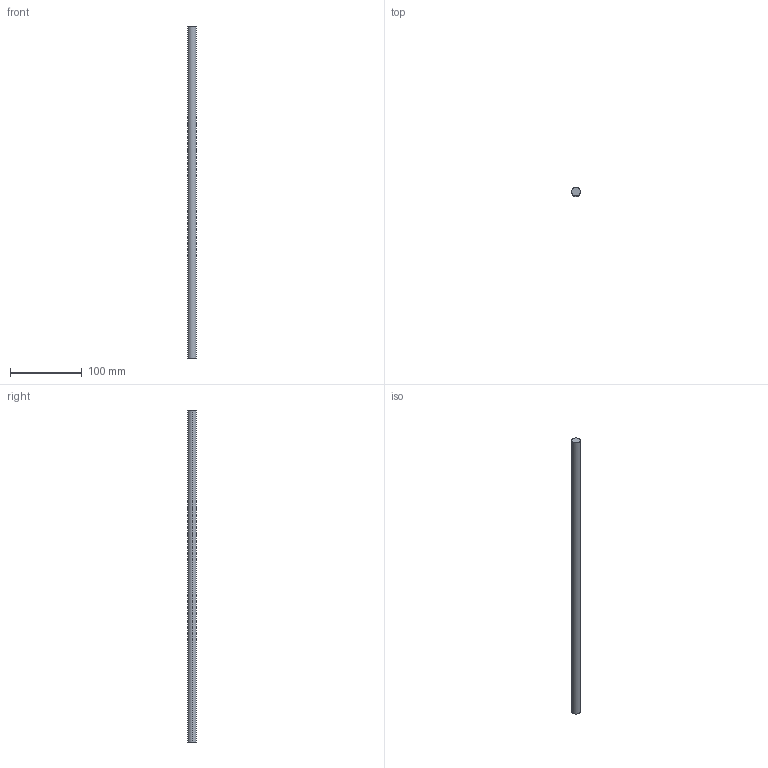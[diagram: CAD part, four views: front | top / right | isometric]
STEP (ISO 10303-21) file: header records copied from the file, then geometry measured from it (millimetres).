
FILE_DESCRIPTION (( 'STEP AP214' ), '1' );
FILE_NAME ('Magic Reling längs - 500.step', '2010-09-07T14:56:17', ( 'grass' ), ( '' ), 'SwSTEP 2.0', 'SolidWorks 2010', '' );
FILE_SCHEMA (( 'AUTOMOTIVE_DESIGN' ));
Length unit declared in the file: millimetre
Products named in the file (1): Magic Reling längs - 500
Bounding box: 12 x 12 x 462 mm (x, y, z)
Volume: 52251 mm3; surface area: 17643.2 mm2
Topology: 1 solids, 1 shells, 4 faces, 6 edges, 4 vertices
Faces by surface type: cylinder 2, plane 2
Entity records: 128 total; most frequent: DIRECTION 20, CARTESIAN_POINT 15, ORIENTED_EDGE 12, AXIS2_PLACEMENT_3D 9, EDGE_CURVE 6, EDGE_LOOP 4, FACE_OUTER_BOUND 4, CIRCLE 4
